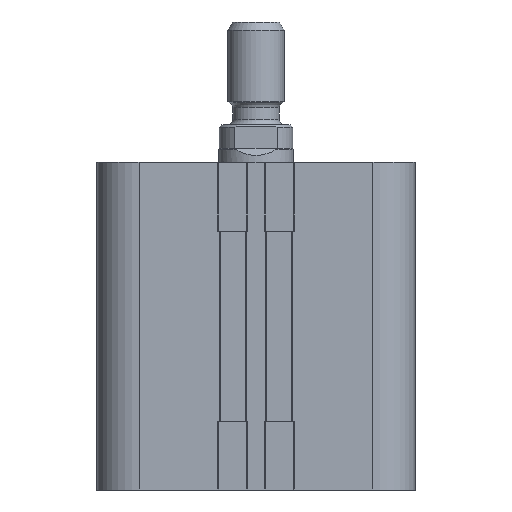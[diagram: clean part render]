
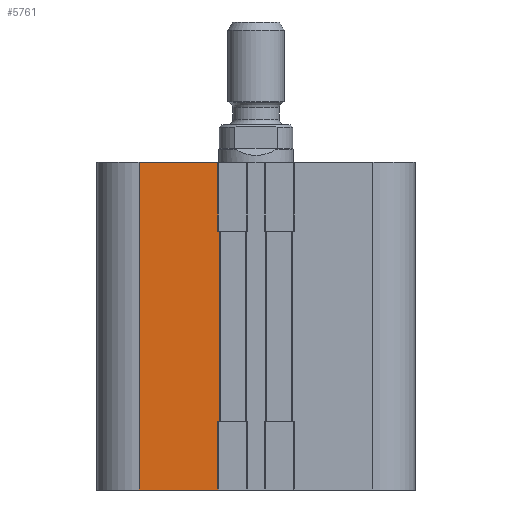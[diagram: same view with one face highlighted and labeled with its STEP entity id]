
A CAD part, front view. The second image highlights one B-rep face of the part: STEP entity #5761.
In plain terms, the highlighted planar face has unit normal (0, -1, 0).
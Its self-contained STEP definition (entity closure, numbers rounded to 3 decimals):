
#302 = CARTESIAN_POINT ( 'NONE',  ( -34., -34., 0. ) ) ;
#303 = DIRECTION ( 'NONE',  ( 1., 0., 0. ) ) ;
#336 = CARTESIAN_POINT ( 'NONE',  ( -34., -34., 40.6 ) ) ;
#337 = DIRECTION ( 'NONE',  ( 1., 0., 0. ) ) ;
#380 = CARTESIAN_POINT ( 'NONE',  ( -8.2, -34., 137.467 ) ) ;
#384 = DIRECTION ( 'NONE',  ( 0., 0., -1. ) ) ;
#843 = ORIENTED_EDGE ( 'NONE', *, *, #2688, .T. ) ;
#844 = ORIENTED_EDGE ( 'NONE', *, *, #7495, .F. ) ;
#845 = ORIENTED_EDGE ( 'NONE', *, *, #11869, .F. ) ;
#846 = ORIENTED_EDGE ( 'NONE', *, *, #9915, .T. ) ;
#847 = ORIENTED_EDGE ( 'NONE', *, *, #11866, .T. ) ;
#848 = ORIENTED_EDGE ( 'NONE', *, *, #9932, .F. ) ;
#849 = ORIENTED_EDGE ( 'NONE', *, *, #9950, .F. ) ;
#850 = ORIENTED_EDGE ( 'NONE', *, *, #7454, .F. ) ;
#1414 = LINE ( 'NONE', #336, #1417 ) ;
#1417 = VECTOR ( 'NONE', #337, 1000. ) ;
#1445 = LINE ( 'NONE', #380, #1450 ) ;
#1450 = VECTOR ( 'NONE', #384, 1000. ) ;
#1913 = LINE ( 'NONE', #12842, #1923 ) ;
#1917 = LINE ( 'NONE', #12832, #1919 ) ;
#1919 = VECTOR ( 'NONE', #12824, 1000. ) ;
#1923 = VECTOR ( 'NONE', #12838, 1000. ) ;
#2688 = EDGE_CURVE ( 'NONE', #4251, #4316, #6515, .T. ) ;
#4251 = VERTEX_POINT ( 'NONE', #13831 ) ;
#4253 = VERTEX_POINT ( 'NONE', #13833 ) ;
#4314 = VERTEX_POINT ( 'NONE', #13881 ) ;
#4316 = VERTEX_POINT ( 'NONE', #13882 ) ;
#5761 = ADVANCED_FACE ( 'NONE', ( #6701 ), #14055, .F. ) ;
#6515 = LINE ( 'NONE', #13603, #6517 ) ;
#6517 = VECTOR ( 'NONE', #13604, 1000. ) ;
#6701 = FACE_OUTER_BOUND ( 'NONE', #7339, .T. ) ;
#7339 = EDGE_LOOP ( 'NONE', ( #843, #844, #845, #846, #847, #848, #849, #850 ) ) ;
#7454 = EDGE_CURVE ( 'NONE', #4251, #4253, #8628, .T. ) ;
#7495 = EDGE_CURVE ( 'NONE', #4314, #4316, #8685, .T. ) ;
#8628 = LINE ( 'NONE', #9167, #8630 ) ;
#8630 = VECTOR ( 'NONE', #9168, 1000. ) ;
#8685 = LINE ( 'NONE', #9274, #8687 ) ;
#8687 = VECTOR ( 'NONE', #9275, 1000. ) ;
#8978 = LINE ( 'NONE', #302, #8981 ) ;
#8981 = VECTOR ( 'NONE', #303, 1000. ) ;
#9167 = CARTESIAN_POINT ( 'NONE',  ( -8., -34., 55.3 ) ) ;
#9168 = DIRECTION ( 'NONE',  ( 1., 0., 0. ) ) ;
#9274 = CARTESIAN_POINT ( 'NONE',  ( -34., -34., -14.7 ) ) ;
#9275 = DIRECTION ( 'NONE',  ( -1., 0., 0. ) ) ;
#9915 = EDGE_CURVE ( 'NONE', #10347, #10346, #8978, .T. ) ;
#9932 = EDGE_CURVE ( 'NONE', #10474, #10334, #1414, .T. ) ;
#9950 = EDGE_CURVE ( 'NONE', #4253, #10474, #1445, .T. ) ;
#10334 = VERTEX_POINT ( 'NONE', #12095 ) ;
#10346 = VERTEX_POINT ( 'NONE', #12107 ) ;
#10347 = VERTEX_POINT ( 'NONE', #12108 ) ;
#10474 = VERTEX_POINT ( 'NONE', #12235 ) ;
#10920 = AXIS2_PLACEMENT_3D ( 'NONE', #14050, #14058, #14059 ) ;
#11866 = EDGE_CURVE ( 'NONE', #10346, #10334, #1917, .T. ) ;
#11869 = EDGE_CURVE ( 'NONE', #10347, #4314, #1913, .T. ) ;
#12095 = CARTESIAN_POINT ( 'NONE',  ( -7.875, -34., 40.6 ) ) ;
#12107 = CARTESIAN_POINT ( 'NONE',  ( -7.875, -34., 0. ) ) ;
#12108 = CARTESIAN_POINT ( 'NONE',  ( -8.2, -34., 0. ) ) ;
#12235 = CARTESIAN_POINT ( 'NONE',  ( -8.2, -34., 40.6 ) ) ;
#12824 = DIRECTION ( 'NONE',  ( 0., 0., 1. ) ) ;
#12832 = CARTESIAN_POINT ( 'NONE',  ( -7.875, -34., 40.6 ) ) ;
#12838 = DIRECTION ( 'NONE',  ( 0., 0., -1. ) ) ;
#12842 = CARTESIAN_POINT ( 'NONE',  ( -8.2, -34., 137.467 ) ) ;
#13603 = CARTESIAN_POINT ( 'NONE',  ( -25., -34., 40.6 ) ) ;
#13604 = DIRECTION ( 'NONE',  ( 0., 0., -1. ) ) ;
#13831 = CARTESIAN_POINT ( 'NONE',  ( -25., -34., 55.3 ) ) ;
#13833 = CARTESIAN_POINT ( 'NONE',  ( -8.2, -34., 55.3 ) ) ;
#13881 = CARTESIAN_POINT ( 'NONE',  ( -8.2, -34., -14.7 ) ) ;
#13882 = CARTESIAN_POINT ( 'NONE',  ( -25., -34., -14.7 ) ) ;
#14050 = CARTESIAN_POINT ( 'NONE',  ( -34., -34., 40.6 ) ) ;
#14055 = PLANE ( 'NONE',  #10920 ) ;
#14058 = DIRECTION ( 'NONE',  ( 0., 1., 0. ) ) ;
#14059 = DIRECTION ( 'NONE',  ( -1., 0., 0. ) ) ;
